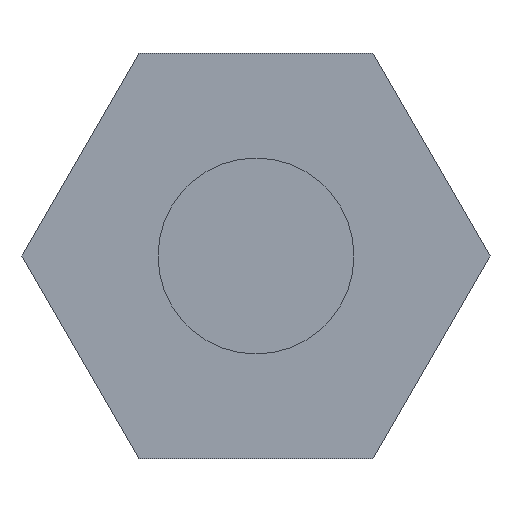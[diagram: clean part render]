
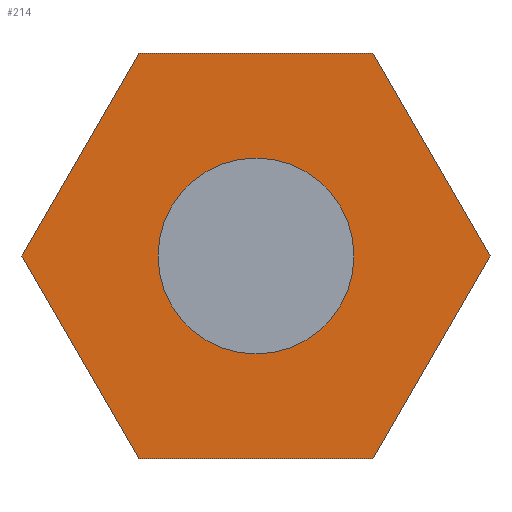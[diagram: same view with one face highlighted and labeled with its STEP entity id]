
A CAD part, front view. The second image highlights one B-rep face of the part: STEP entity #214.
In plain terms, the highlighted planar face has unit normal (0, -1, 0).
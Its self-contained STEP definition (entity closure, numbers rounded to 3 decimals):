
#16=FACE_BOUND('',#52,.T.);
#26=PLANE('',#246);
#38=FACE_OUTER_BOUND('',#51,.T.);
#51=EDGE_LOOP('',(#194,#195,#196,#197,#198,#199));
#52=EDGE_LOOP('',(#200));
#56=LINE('',#330,#77);
#60=LINE('',#338,#81);
#63=LINE('',#344,#84);
#66=LINE('',#350,#87);
#69=LINE('',#356,#90);
#72=LINE('',#361,#93);
#77=VECTOR('',#274,10.);
#81=VECTOR('',#280,10.);
#84=VECTOR('',#285,10.);
#87=VECTOR('',#290,10.);
#90=VECTOR('',#295,10.);
#93=VECTOR('',#300,10.);
#96=CIRCLE('',#231,0.967);
#102=VERTEX_POINT('',#310);
#108=VERTEX_POINT('',#328);
#109=VERTEX_POINT('',#329);
#112=VERTEX_POINT('',#337);
#114=VERTEX_POINT('',#343);
#116=VERTEX_POINT('',#349);
#118=VERTEX_POINT('',#355);
#122=EDGE_CURVE('',#102,#102,#96,.F.);
#129=EDGE_CURVE('',#108,#109,#56,.T.);
#133=EDGE_CURVE('',#109,#112,#60,.T.);
#136=EDGE_CURVE('',#114,#112,#63,.T.);
#139=EDGE_CURVE('',#116,#114,#66,.T.);
#142=EDGE_CURVE('',#118,#116,#69,.T.);
#145=EDGE_CURVE('',#118,#108,#72,.T.);
#194=ORIENTED_EDGE('',*,*,#145,.T.);
#195=ORIENTED_EDGE('',*,*,#129,.T.);
#196=ORIENTED_EDGE('',*,*,#133,.T.);
#197=ORIENTED_EDGE('',*,*,#136,.F.);
#198=ORIENTED_EDGE('',*,*,#139,.F.);
#199=ORIENTED_EDGE('',*,*,#142,.F.);
#200=ORIENTED_EDGE('',*,*,#122,.T.);
#214=ADVANCED_FACE('',(#38,#16),#26,.F.);
#231=AXIS2_PLACEMENT_3D('',#312,#254,#255);
#246=AXIS2_PLACEMENT_3D('',#364,#304,#305);
#254=DIRECTION('center_axis',(0.,-1.,0.));
#255=DIRECTION('ref_axis',(1.,0.,0.));
#274=DIRECTION('',(1.,0.,0.));
#280=DIRECTION('',(0.5,0.,0.866));
#285=DIRECTION('',(0.5,0.,-0.866));
#290=DIRECTION('',(1.,0.,0.));
#295=DIRECTION('',(0.5,0.,0.866));
#300=DIRECTION('',(0.5,0.,-0.866));
#304=DIRECTION('center_axis',(0.,1.,0.));
#305=DIRECTION('ref_axis',(1.,0.,0.));
#310=CARTESIAN_POINT('',(-0.967,0.,0.));
#312=CARTESIAN_POINT('Origin',(0.,0.,0.));
#328=CARTESIAN_POINT('',(-1.155,0.,-2.));
#329=CARTESIAN_POINT('',(1.155,0.,-2.));
#330=CARTESIAN_POINT('',(-1.155,0.,-2.));
#337=CARTESIAN_POINT('',(2.309,0.,0.));
#338=CARTESIAN_POINT('',(1.155,0.,-2.));
#343=CARTESIAN_POINT('',(1.155,0.,2.));
#344=CARTESIAN_POINT('',(1.155,0.,2.));
#349=CARTESIAN_POINT('',(-1.155,0.,2.));
#350=CARTESIAN_POINT('',(-1.155,0.,2.));
#355=CARTESIAN_POINT('',(-2.309,0.,0.));
#356=CARTESIAN_POINT('',(-2.309,0.,0.));
#361=CARTESIAN_POINT('',(-2.309,0.,0.));
#364=CARTESIAN_POINT('Origin',(0.,0.,0.));
